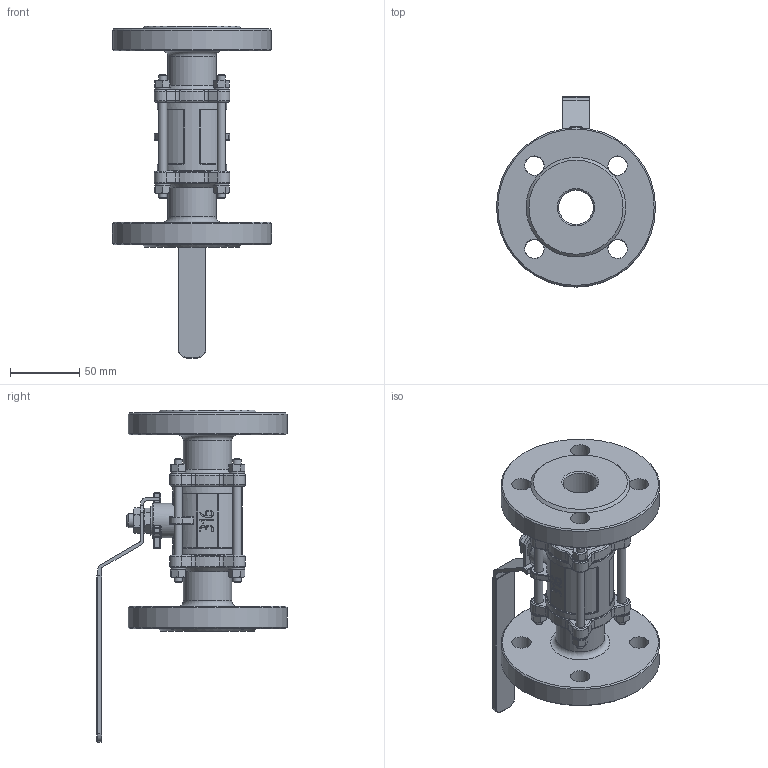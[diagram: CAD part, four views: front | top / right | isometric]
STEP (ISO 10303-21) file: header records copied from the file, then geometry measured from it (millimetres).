
FILE_DESCRIPTION(('STEP AP214'), '1');
FILE_NAME('BV3232P(3pc)-FP-F-H - Êðàí øàðîâîé DN.ru Äó25 Ðó40', '', ('UNSPECIFIED'), ('UNSPECIFIED'), 'C3D Converter', 'C3D Toolkit', '');
FILE_SCHEMA(('AUTOMOTIVE_DESIGN { 1 0 10303 214 3 1 1}'));
Length unit declared in the file: millimetre
Products named in the file (1): BV3232P(3pc)-FP-F-H
Bounding box: 115 x 137.5 x 240 mm (x, y, z)
Volume: 478259.8 mm3; surface area: 108503.3 mm2
Topology: 1 solids, 1 shells, 1544 faces, 3892 edges, 2435 vertices
Faces by surface type: plane 518, extrusion 444, cylinder 235, cone 139, torus 118, bspline 54, sphere 36
Full cylindrical faces by diameter (mm): 6 x12, 6.4 x8, 7 x10, 10 x1, 11 x8, 14 x8, 21 x1, 25 x2, 35 x2, 50 x1, 115 x2
Entity records: 62393 total; most frequent: CARTESIAN_POINT 23524, ORIENTED_EDGE 7626, DIRECTION 5886, EDGE_CURVE 3813, VERTEX_POINT 2435, VECTOR 2064, AXIS2_PLACEMENT_3D 1911, B_SPLINE_CURVE_WITH_KNOTS 1772
